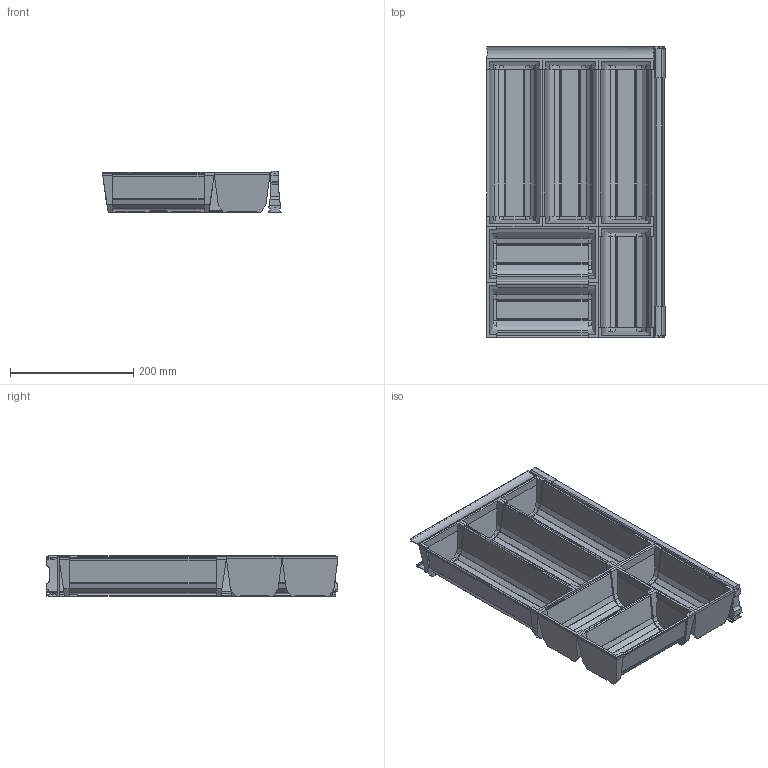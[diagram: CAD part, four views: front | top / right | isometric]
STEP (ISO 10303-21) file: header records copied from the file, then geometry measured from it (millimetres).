
FILE_DESCRIPTION (( 'STEP AP214' ), '1' );
FILE_NAME ('Magic-Sorto_B3_NL-500.STEP', '2010-08-17T11:54:53', ( 'grass' ), ( '' ), 'SwSTEP 2.0', 'SolidWorks 2010', '' );
FILE_SCHEMA (( 'AUTOMOTIVE_DESIGN' ));
Length unit declared in the file: millimetre
Products named in the file (1): Magic-Sorto_B3_NL-500
Bounding box: 290.01 x 473.5 x 67.5 mm (x, y, z)
Volume: 842979.9 mm3; surface area: 751528 mm2
Topology: 8 solids, 8 shells, 819 faces, 2373 edges, 1582 vertices
Faces by surface type: plane 541, cylinder 278
Entity records: 36233 total; most frequent: CARTESIAN_POINT 5277, ORIENTED_EDGE 4746, DIRECTION 4421, EDGE_CURVE 2373, LINE 1777, VECTOR 1777, VERTEX_POINT 1582, AXIS2_PLACEMENT_3D 1322
